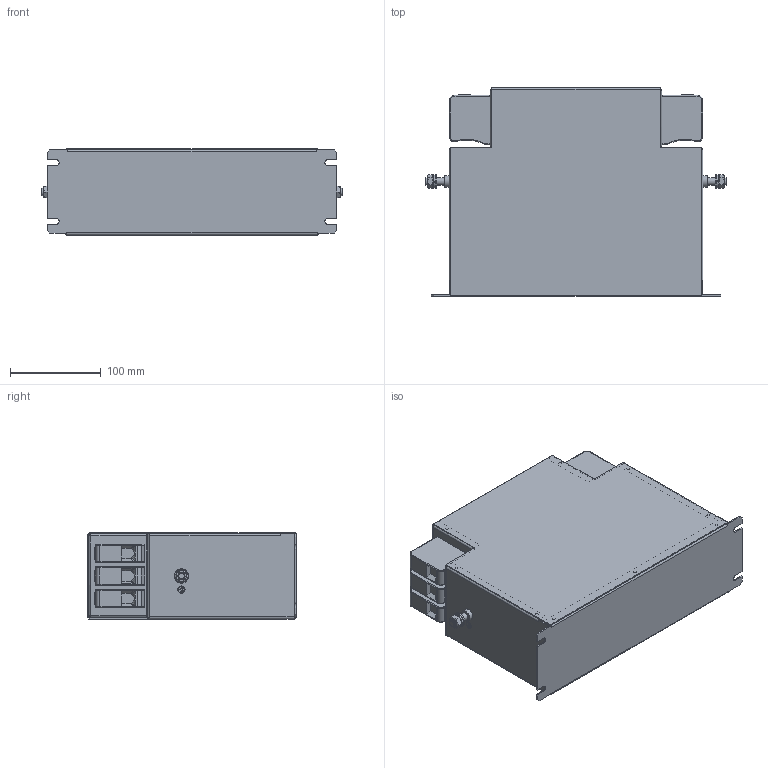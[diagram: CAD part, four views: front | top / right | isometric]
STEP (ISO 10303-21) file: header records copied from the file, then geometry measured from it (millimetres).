
FILE_DESCRIPTION(/* description */ ('raw material description'),/* implementation_level */ '2;1');
FILE_NAME(/* name */ 'C:\Users\Oliver.Volic\OneDrive - Schaffner EMV AG\Projekte\STEP\Wanda\FN3288IT-100_125-35.stp',/* time_stamp */ '2018-06-28T11:28:12+02:00',/* author */ ('Oliver.Volic'),/* organization */ ('Schaffner EMV AG'),/* preprocessor_version */ 'ST-DEVELOPER v16.5',/* originating_system */ 'Autodesk Inventor 2017',/* authorisation */ '');
FILE_SCHEMA (('AUTOMOTIVE_DESIGN { 1 0 10303 214 3 1 1 }'));
Length unit declared in the file: millimetre
Products named in the file (1): FN3288IT-100_125-35.
Bounding box: 333 x 230.05 x 95 mm (x, y, z)
Volume: 634773.7 mm3; surface area: 488636.8 mm2
Topology: 1 solids, 7 shells, 1132 faces, 2730 edges, 1670 vertices
Faces by surface type: plane 709, cylinder 249, bspline 90, torus 60, cone 24
Full cylindrical faces by diameter (mm): 3.3 x13, 4.82 x4, 6.8 x6, 7 x2, 7.323 x2, 8 x6, 8.4 x2, 10.5 x2, 11.4 x2, 12.65 x2, 16 x2
Entity records: 34133 total; most frequent: CARTESIAN_POINT 7075, ORIENTED_EDGE 5314, DIRECTION 5296, EDGE_CURVE 2649, LINE 1896, VECTOR 1896, AXIS2_PLACEMENT_3D 1700, VERTEX_POINT 1656
